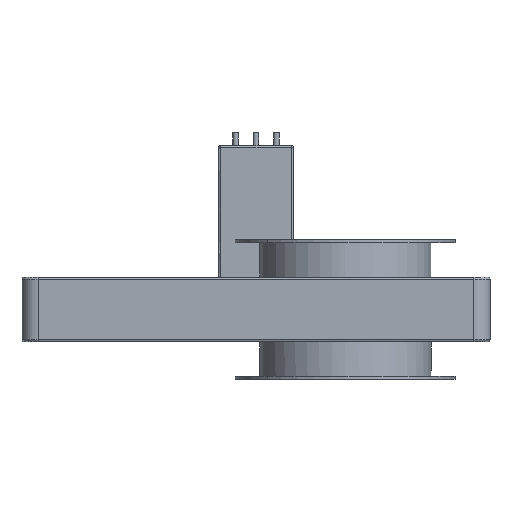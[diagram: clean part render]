
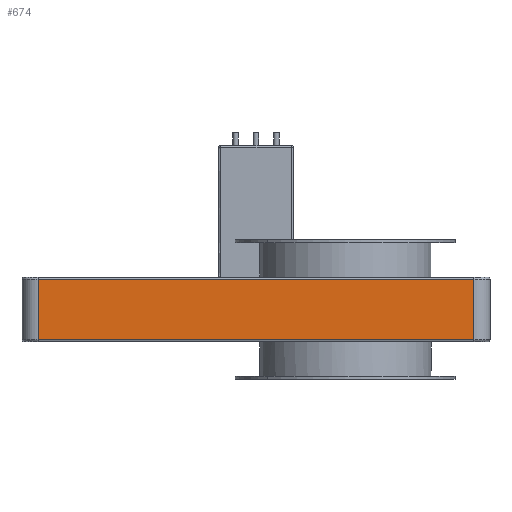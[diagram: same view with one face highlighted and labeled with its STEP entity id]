
A CAD part, front view. The second image highlights one B-rep face of the part: STEP entity #674.
In plain terms, the highlighted free-form (B-spline) face has degree [1, 1] with [2, 2] control points.
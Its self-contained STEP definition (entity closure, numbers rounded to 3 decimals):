
#619=CARTESIAN_POINT('',(-286.776,-108.913,-28.));
#620=VERTEX_POINT('',#619);
#629=CARTESIAN_POINT('',(-286.776,-108.913,28.));
#630=VERTEX_POINT('',#629);
#631=CARTESIAN_POINT('',(-286.776,-108.913,-28.));
#632=CARTESIAN_POINT('',(-286.776,-108.913,28.));
#633=B_SPLINE_CURVE_WITH_KNOTS('',1,(#631,#632),.POLYLINE_FORM.,.F.,.U.,(2,2),(0.033,0.967),.UNSPECIFIED.);
#634=EDGE_CURVE('',#620,#630,#633,.T.);
#647=CARTESIAN_POINT('',(-286.776,-108.913,-30.));
#648=CARTESIAN_POINT('',(-286.776,-108.913,30.));
#649=CARTESIAN_POINT('',(119.855,-108.913,-30.));
#650=CARTESIAN_POINT('',(119.855,-108.913,30.));
#651=B_SPLINE_SURFACE_WITH_KNOTS('',1,1,((#647,#648),(#649,#650)),.PLANE_SURF.,.F.,.F.,.U.,(2,2),(2,2),(0.,1.),(0.,1.),.UNSPECIFIED.);
#652=ORIENTED_EDGE('',*,*,#634,.F.);
#653=CARTESIAN_POINT('',(119.855,-108.913,-28.));
#654=VERTEX_POINT('',#653);
#655=CARTESIAN_POINT('',(-286.776,-108.913,-28.));
#656=CARTESIAN_POINT('',(119.855,-108.913,-28.));
#657=B_SPLINE_CURVE_WITH_KNOTS('',1,(#655,#656),.POLYLINE_FORM.,.F.,.U.,(2,2),(0.,1.),.UNSPECIFIED.);
#658=EDGE_CURVE('',#620,#654,#657,.T.);
#659=ORIENTED_EDGE('',*,*,#658,.T.);
#660=CARTESIAN_POINT('',(119.855,-108.913,28.));
#661=VERTEX_POINT('',#660);
#662=CARTESIAN_POINT('',(119.855,-108.913,-28.));
#663=CARTESIAN_POINT('',(119.855,-108.913,28.));
#664=B_SPLINE_CURVE_WITH_KNOTS('',1,(#662,#663),.POLYLINE_FORM.,.F.,.U.,(2,2),(0.033,0.967),.UNSPECIFIED.);
#665=EDGE_CURVE('',#654,#661,#664,.T.);
#666=ORIENTED_EDGE('',*,*,#665,.T.);
#667=CARTESIAN_POINT('',(-286.776,-108.913,28.));
#668=CARTESIAN_POINT('',(119.855,-108.913,28.));
#669=B_SPLINE_CURVE_WITH_KNOTS('',1,(#667,#668),.POLYLINE_FORM.,.F.,.U.,(2,2),(0.,1.),.UNSPECIFIED.);
#670=EDGE_CURVE('',#630,#661,#669,.T.);
#671=ORIENTED_EDGE('',*,*,#670,.F.);
#672=EDGE_LOOP('',(#652,#659,#666,#671));
#673=FACE_OUTER_BOUND('',#672,.T.);
#674=ADVANCED_FACE('',(#673),#651,.T.);
